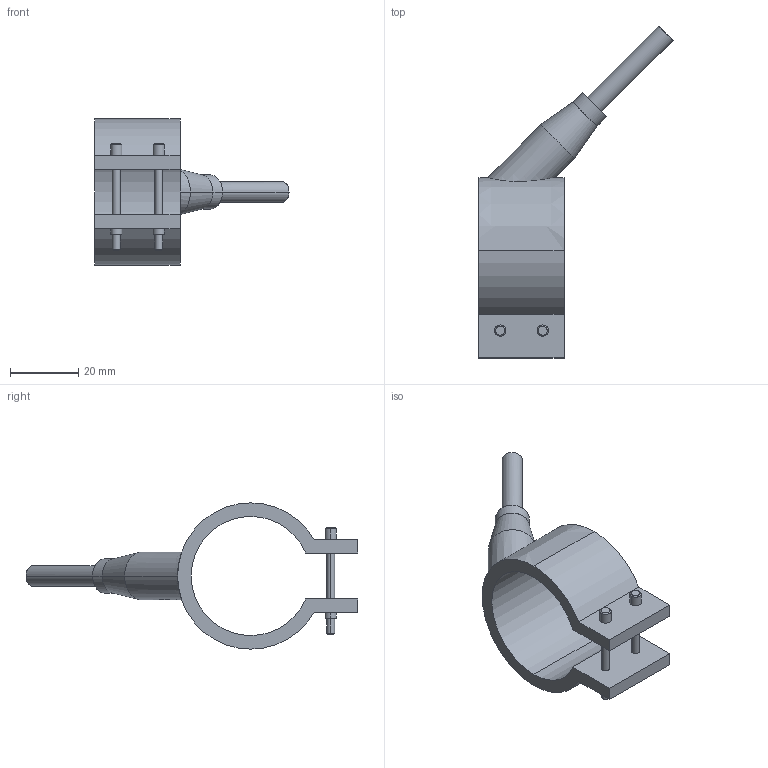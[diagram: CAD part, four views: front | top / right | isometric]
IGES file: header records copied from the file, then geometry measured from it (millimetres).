
Start section: START RECORD GO HERE.
Global section: file name: 29035025.igs; native system: DASSAULT SYSTEMES CATIA V5 R20 - www.3ds.com; preprocessor: CATIA Version 5 Release 20 ; author: Utente; organization: NB04-ASUS; date: 20210327.100523; units: millimetre
Bounding box: 57.05 x 97.55 x 43 mm (x, y, z)
Surface area: 9914.1 mm2 (no closed solid volume)
Topology: 0 solids, 0 shells, 54 faces, 246 edges, 246 vertices
Faces by surface type: revolution 38, plane 16
